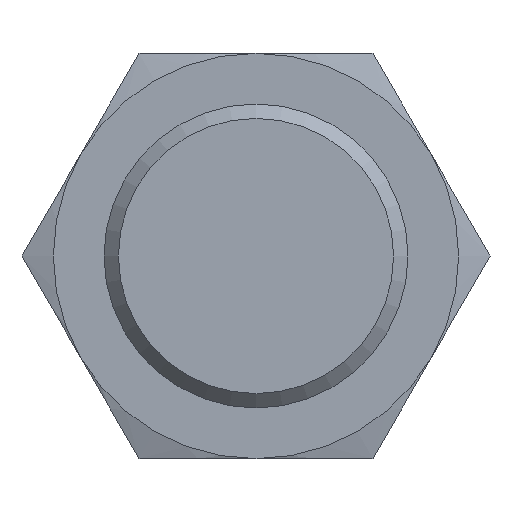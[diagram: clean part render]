
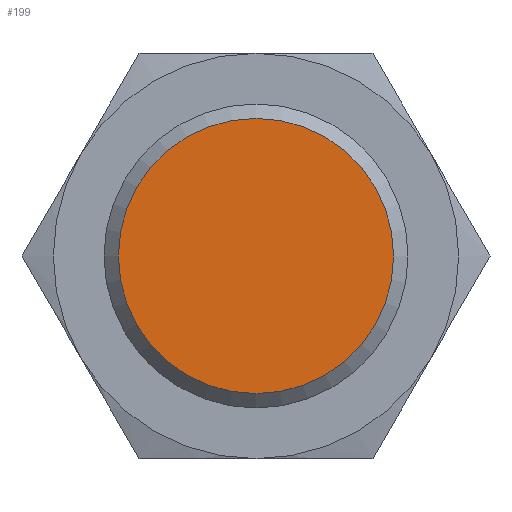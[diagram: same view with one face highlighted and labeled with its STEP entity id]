
A CAD part, left-side view. The second image highlights one B-rep face of the part: STEP entity #199.
In plain terms, the highlighted planar face has unit normal (-1, 0, 0).
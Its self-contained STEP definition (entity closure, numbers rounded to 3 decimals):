
#199 = ADVANCED_FACE( '', ( #285 ), #286, .F. );
#285 = FACE_OUTER_BOUND( '', #422, .T. );
#286 = PLANE( '', #423 );
#422 = EDGE_LOOP( '', ( #617 ) );
#423 = AXIS2_PLACEMENT_3D( '', #618, #619, #620 );
#617 = ORIENTED_EDGE( '', *, *, #886, .F. );
#618 = CARTESIAN_POINT( '', ( 0., 0., 0. ) );
#619 = DIRECTION( '', ( 1., 0., 0. ) );
#620 = DIRECTION( '', ( 0., 0., -1. ) );
#886 = EDGE_CURVE( '', #999, #999, #1000, .T. );
#999 = VERTEX_POINT( '', #1432 );
#1000 = CIRCLE( '', #1433, 8.15 );
#1432 = CARTESIAN_POINT( '', ( 0., 0., -8.15 ) );
#1433 = AXIS2_PLACEMENT_3D( '', #1748, #1749, #1750 );
#1748 = CARTESIAN_POINT( '', ( 0., 0., 0. ) );
#1749 = DIRECTION( '', ( 1., 0., 0. ) );
#1750 = DIRECTION( '', ( 0., 0., -1. ) );
